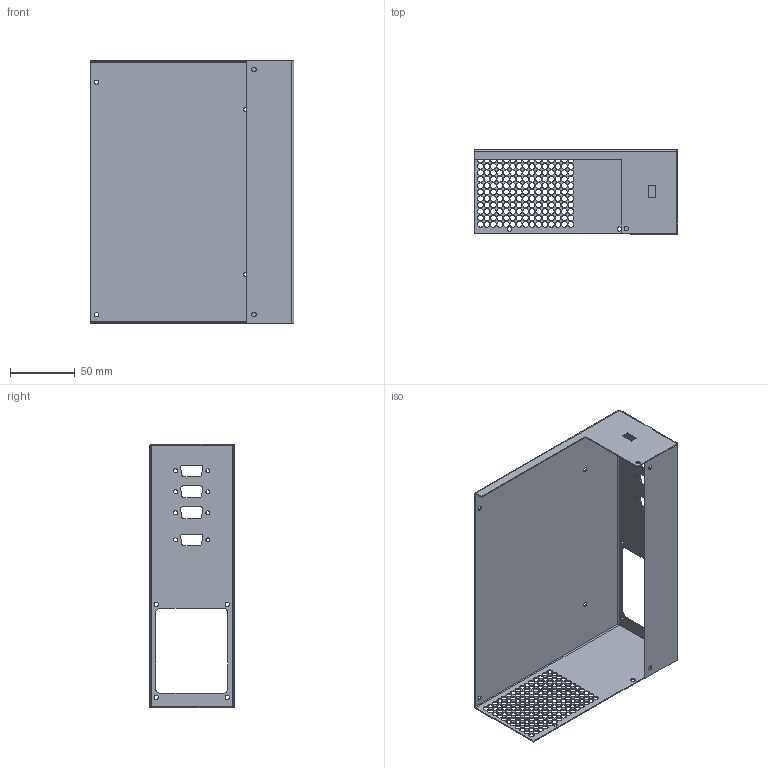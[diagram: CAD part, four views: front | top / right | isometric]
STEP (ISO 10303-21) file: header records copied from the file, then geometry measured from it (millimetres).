
FILE_DESCRIPTION (( 'STEP AP203' ), '1' );
FILE_NAME ('紫1.00.00.002-署赅.STEP', '2009-11-11T08:04:49', ( 'User' ), ( 'Microsoft Corporation' ), 'SwSTEP 2.0', 'SolidWorks 2008', '' );
FILE_SCHEMA (( 'CONFIG_CONTROL_DESIGN' ));
Length unit declared in the file: millimetre
Products named in the file (1): ×Ï1.00.00.002-Êðûøêà
Bounding box: 158 x 65.8 x 204.4 mm (x, y, z)
Volume: 47295.2 mm3; surface area: 121598.1 mm2
Topology: 1 solids, 1 shells, 470 faces, 1380 edges, 912 vertices
Faces by surface type: cylinder 402, plane 64, bspline 4
Entity records: 17057 total; most frequent: DIRECTION 3096, CARTESIAN_POINT 2967, ORIENTED_EDGE 2760, EDGE_CURVE 1380, AXIS2_PLACEMENT_3D 1263, VERTEX_POINT 912, EDGE_LOOP 854, CIRCLE 796
